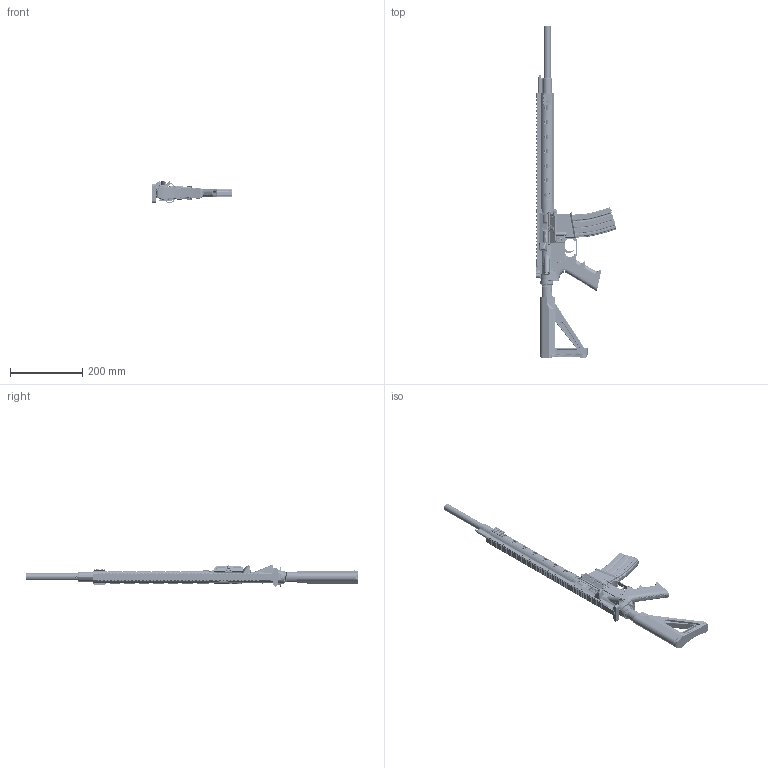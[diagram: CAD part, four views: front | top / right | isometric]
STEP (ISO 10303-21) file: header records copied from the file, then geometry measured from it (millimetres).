
FILE_DESCRIPTION (( 'STEP AP214' ), '1' );
FILE_NAME ('Sig Sauer SIG516 Patrol Rifle with Bull Barrel.STEP', '2014-09-14T19:26:51', ( '' ), ( '' ), 'SwSTEP 2.0', 'SolidWorks 2014', '' );
FILE_SCHEMA (( 'AUTOMOTIVE_DESIGN' ));
Length unit declared in the file: inch
Products named in the file (64): Sig516 Trigger Gaurd Pin^Sig Sauer SIG516 Patrol Rifle with Bull Barrel; Integrated Supressor Assembly Revised; Part1^Sig Sauer SIG516 Patrol Rifle with Bull Barrel; Sig516 Trigger Group pin^Sig Sauer SIG516 Patrol Rifle with Bull Barrel; Integrated Front Cap Baffle; Sig516 Custom Gas Piston Spring; Sig516 Buffer Spring; Sig516 Hammer Hinge Pin^Sig Sauer SIG516 Patrol Rifle with Bull Barrel; Integrated Front Cap; Sig516 Custom Gas Piston Push Rod^Sig Sauer SIG516 Patrol Rifle with Bull Barrel; Sig516 Buffer Tube Collar Nut; Sig516 Trigger Hinge Pin^Sig Sauer SIG516 Patrol Rifle with Bull Barrel; Integrated Baffle; Sig516 Piston Spring Flex Plate^Sig Sauer SIG516 Patrol Rifle with Bull Barrel; Sig516 Buffer Tube; Sig516 Rear Takedown Pin; Integrated Suppressor Tube; Sig516 Custom Piston Flow Channel; Sig516 Buffer Back Plate; Sig516 Front Takedown Pin; 18 in Vented Bull Barrel; Part2^Sig Sauer SIG516 Patrol Rifle with Bull Barrel; Sig516 Lower Receiver; Sig516 Safety; Sig516 Barrel Extension1; socket head cap screw_am_B18.3.1M - 3 x 0.5 x 5 Hex SHCS -- 5NHX; Sig516 Bolt Catch; Sig 516 Piston Bolt Carrier Group; Mil-Spec 1913 mini Rail; Sig Sauer SIG516 Patrol Rifle with Bull Barrel; Sig516 Magazine; AR-15_BCG_Cam_Pin; MS16562-95 PIN, SPRING; Sig516 Pistol Grip; AR-15_BCG_Firing_Pin_Retaining_Pin; D8448784 HOUSING, COVER LATCH; Sig516 Magazine Release Button; AR-15_Firing_Pin; B8448786 LATCH, COVER; Sig516 Magazine Release Bolt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
Assembly tree (68 placements, depth 4):
  Part1^Sig Sauer SIG516 Patrol Rifle with Bull Barrel
  Part2^Sig Sauer SIG516 Patrol Rifle with Bull Barrel
  Sig Sauer SIG516 Patrol Rifle with Bull Barrel
    Sig516 Lower Receiver  x2
    Sig516 Buffer Back Plate
    Sig516 Buffer Tube
    Sig516 Buffer Tube Collar Nut
    Sig516 Buffer Spring
    Sig516 Buffer Spring Weight
    Sig516 Buffer Sring Rubber Stop
    Sig516 Butt Stock (unfinished)
    Sig516 Hammer
    Sig516 Disconnector
    Sig516 Trigger
    Sig516 Trigger Gaurd
    Sig516 Magazine Catch
    Sig516 Magazine Release Bolt
    Sig516 Magazine Release Button
    Sig516 Pistol Grip
    Sig516 Magazine
    Sig516 Bolt Catch
    Sig516 Safety
    Sig516 Front Takedown Pin
    Sig516 Rear Takedown Pin
    Sig516 Trigger Hinge Pin^Sig Sauer SIG516 Patrol Rifle with Bull Barrel
    Sig516 Hammer Hinge Pin^Sig Sauer SIG516 Patrol Rifle with Bull Barrel
    Sig516 Trigger Group pin^Sig Sauer SIG516 Patrol Rifle with Bull Barrel
    Sig516 Trigger Gaurd Pin^Sig Sauer SIG516 Patrol Rifle with Bull Barrel
    Sig516 Trigger Gaurd Pin2^Sig Sauer SIG516 Patrol Rifle with Bull Barrel
    Sig516 Upper Reciever
    Sig 516 Piston Bolt Carrier Group
      AR-15_Piston_Bolt_Carrier
      AR-15_Bolt_Assembly
        AR-15_Bolt
        AR-15_BCG_Extractor
        AR-15_BCG_Extractor_Spring
        AR-15_BCG_Extractor_Pin
      AR-15_Firing_Pin
      AR-15_BCG_Firing_Pin_Retaining_Pin
      AR-15_BCG_Cam_Pin
    Sig516 Barrel Extension1
    Integrated Supressor Assembly Revised
      18 in Vented Bull Barrel
      Integrated Suppressor Tube
      Integrated Baffle  x3
      Integrated Front Cap
      Integrated Front Cap Baffle
    Copy of Sig516 Barrel Nut^Sig Sauer SIG516 Patrol Rifle with Bull Barrel
    Sig516 12in Hand Gaurd^Sig Sauer SIG516 Patrol Rifle with Bull Barrel
    Sig516 Custom Gas Block^Sig Sauer SIG516 Patrol Rifle with Bull Barrel
    Sig516 Charging Handle
    Sig516 dust cover hinge pin
    AR dust cover
    Sig516 dust cover spring
    Sig516 Gas Piston Valve Custom^Sig Sauer SIG516 Patrol Rifle with Bull Barrel
    B8448786 LATCH, COVER
    D8448784 HOUSING, COVER LATCH
    MS16562-95 PIN, SPRING
    Mil-Spec 1913 mini Rail  x2
    socket head cap screw_am_B18.3.1M - 3 x 0.5 x 5 Hex SHCS -- 5NHX  x4
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Bounding box: 223.71 x 921.78 x 62.88 mm (x, y, z)
Volume: 925164.6 mm3; surface area: 655968.5 mm2
Topology: 104 solids, 105 shells, 12188 faces, 30000 edges, 18117 vertices
Faces by surface type: bspline 5036, plane 3338, cylinder 3115, cone 442, torus 235, sphere 22
Entity records: 711592 total; most frequent: CARTESIAN_POINT 499751, ORIENTED_EDGE 51570, DIRECTION 27595, EDGE_CURVE 25785, VERTEX_POINT 15421, EDGE_LOOP 11038, FACE_OUTER_BOUND 10661, ADVANCED_FACE 10661
